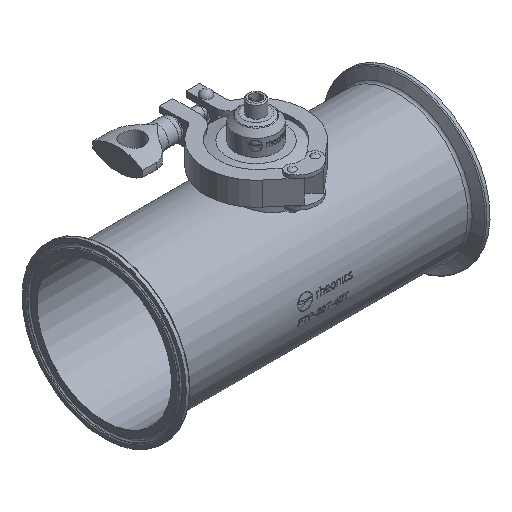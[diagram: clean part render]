
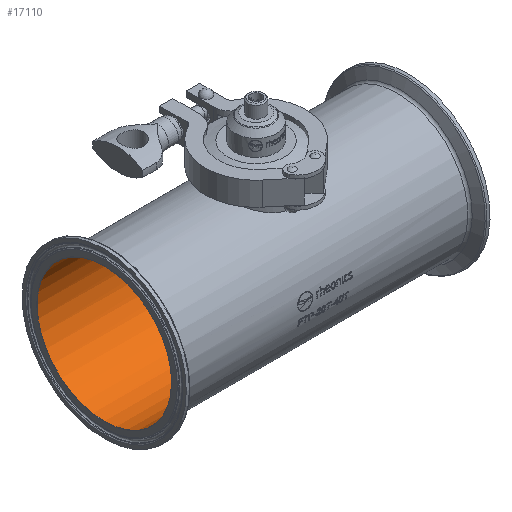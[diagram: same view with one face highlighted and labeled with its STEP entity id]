
A CAD part, isometric view. The second image highlights one B-rep face of the part: STEP entity #17110.
In plain terms, the highlighted cylindrical face has radius 48.69 mm (diameter 97.38 mm), a full revolution.
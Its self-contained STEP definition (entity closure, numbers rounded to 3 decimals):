
#2220=CIRCLE('',#17913,48.69);
#2221=CIRCLE('',#17914,48.69);
#2629=ORIENTED_EDGE('',*,*,#6301,.T.);
#2630=ORIENTED_EDGE('',*,*,#6302,.T.);
#2631=ORIENTED_EDGE('',*,*,#6303,.T.);
#6301=EDGE_CURVE('',#8137,#8137,#9406,.T.);
#6302=EDGE_CURVE('',#8138,#8138,#2220,.F.);
#6303=EDGE_CURVE('',#8139,#8139,#2221,.F.);
#8137=VERTEX_POINT('',#21463);
#8138=VERTEX_POINT('',#21465);
#8139=VERTEX_POINT('',#21467);
#9406=B_SPLINE_CURVE_WITH_KNOTS('',3,(#21418,#21419,#21420,#21421,#21422,
#21423,#21424,#21425,#21426,#21427,#21428,#21429,#21430,#21431,#21432,#21433,
#21434,#21435,#21436,#21437,#21438,#21439,#21440,#21441,#21442,#21443,#21444,
#21445,#21446,#21447,#21448,#21449,#21450,#21451,#21452,#21453,#21454,#21455,
#21456,#21457,#21458,#21459,#21460,#21461,#21462),.UNSPECIFIED.,.T.,.F.,
(1,1,1,1,1,1,1,1,1,1,1,1,1,1,1,1,1,1,1,1,1,1,1,1,1,1,1,1,1,1,1,1,1,1,1,
1,1,1,1,1,1,1,1,1,1,1,1,1,1),(-0.015,-0.01,
-0.005,0.,0.005,0.01,
0.015,0.02,0.022,0.025,
0.03,0.035,0.04,0.042,
0.045,0.047,0.05,0.055,
0.06,0.065,0.07,0.072,
0.075,0.08,0.085,0.089,
0.094,0.099,0.104,0.107,
0.109,0.112,0.114,0.117,
0.119,0.122,0.124,0.129,
0.132,0.134,0.137,0.139,
0.144,0.149,0.154,0.159,
0.164,0.169,0.174),.UNSPECIFIED.);
#10058=EDGE_LOOP('',(#2629));
#10059=EDGE_LOOP('',(#2630));
#10060=EDGE_LOOP('',(#2631));
#11065=FACE_BOUND('',#10058,.T.);
#11066=FACE_BOUND('',#10059,.T.);
#11067=FACE_BOUND('',#10060,.T.);
#12072=CYLINDRICAL_SURFACE('',#17912,48.69);
#17110=ADVANCED_FACE('',(#11065,#11066,#11067),#12072,.F.);
#17912=AXIS2_PLACEMENT_3D('',#21417,#18825,#18826);
#17913=AXIS2_PLACEMENT_3D('',#21464,#18827,#18828);
#17914=AXIS2_PLACEMENT_3D('',#21466,#18829,#18830);
#18825=DIRECTION('',(1.,0.,0.));
#18826=DIRECTION('',(0.,1.,0.));
#18827=DIRECTION('',(-1.,0.,0.));
#18828=DIRECTION('',(0.,-0.924,-0.382));
#18829=DIRECTION('',(1.,0.,0.));
#18830=DIRECTION('',(0.,0.,-1.));
#21417=CARTESIAN_POINT('',(-80.,0.,0.));
#21418=CARTESIAN_POINT('',(24.651,-5.07,48.51));
#21419=CARTESIAN_POINT('',(25.17,0.023,48.778));
#21420=CARTESIAN_POINT('',(24.667,4.979,48.518));
#21421=CARTESIAN_POINT('',(23.192,9.761,47.777));
#21422=CARTESIAN_POINT('',(20.869,14.048,46.683));
#21423=CARTESIAN_POINT('',(18.285,17.179,45.586));
#21424=CARTESIAN_POINT('',(15.92,19.326,44.7));
#21425=CARTESIAN_POINT('',(13.312,21.269,43.82));
#21426=CARTESIAN_POINT('',(9.787,23.178,42.837));
#21427=CARTESIAN_POINT('',(5.009,24.661,41.988));
#21428=CARTESIAN_POINT('',(0.914,25.081,41.733));
#21429=CARTESIAN_POINT('',(-2.454,24.922,41.829));
#21430=CARTESIAN_POINT('',(-4.915,24.553,42.047));
#21431=CARTESIAN_POINT('',(-7.307,23.951,42.394));
#21432=CARTESIAN_POINT('',(-10.424,22.827,43.017));
#21433=CARTESIAN_POINT('',(-13.985,20.91,44.005));
#21434=CARTESIAN_POINT('',(-17.748,17.827,45.358));
#21435=CARTESIAN_POINT('',(-20.832,14.104,46.666));
#21436=CARTESIAN_POINT('',(-22.784,10.512,47.585));
#21437=CARTESIAN_POINT('',(-23.907,7.452,48.136));
#21438=CARTESIAN_POINT('',(-24.742,4.208,48.556));
#21439=CARTESIAN_POINT('',(-25.166,0.094,48.776));
#21440=CARTESIAN_POINT('',(-24.677,-4.946,48.523));
#21441=CARTESIAN_POINT('',(-23.217,-9.695,47.79));
#21442=CARTESIAN_POINT('',(-20.895,-14.015,46.694));
#21443=CARTESIAN_POINT('',(-17.789,-17.784,45.376));
#21444=CARTESIAN_POINT('',(-14.709,-20.328,44.263));
#21445=CARTESIAN_POINT('',(-11.916,-22.023,43.431));
#21446=CARTESIAN_POINT('',(-9.726,-23.073,42.88));
#21447=CARTESIAN_POINT('',(-7.437,-23.91,42.418));
#21448=CARTESIAN_POINT('',(-5.036,-24.53,42.061));
#21449=CARTESIAN_POINT('',(-2.548,-24.912,41.835));
#21450=CARTESIAN_POINT('',(-0.071,-25.041,41.757));
#21451=CARTESIAN_POINT('',(2.418,-24.925,41.827));
#21452=CARTESIAN_POINT('',(5.748,-24.43,42.12));
#21453=CARTESIAN_POINT('',(8.884,-23.469,42.672));
#21454=CARTESIAN_POINT('',(11.857,-22.055,43.415));
#21455=CARTESIAN_POINT('',(13.929,-20.806,44.029));
#21456=CARTESIAN_POINT('',(15.87,-19.368,44.683));
#21457=CARTESIAN_POINT('',(18.279,-17.188,45.583));
#21458=CARTESIAN_POINT('',(20.829,-14.109,46.665));
#21459=CARTESIAN_POINT('',(23.193,-9.753,47.778));
#21460=CARTESIAN_POINT('',(24.651,-5.07,48.51));
#21461=CARTESIAN_POINT('',(25.17,0.023,48.778));
#21462=CARTESIAN_POINT('',(24.667,4.979,48.518));
#21463=CARTESIAN_POINT('',(25.,0.,48.69));
#21464=CARTESIAN_POINT('',(109.85,0.,0.));
#21465=CARTESIAN_POINT('',(109.85,-45.,-18.592));
#21466=CARTESIAN_POINT('',(-109.85,0.,0.));
#21467=CARTESIAN_POINT('',(-109.85,0.,-48.69));
